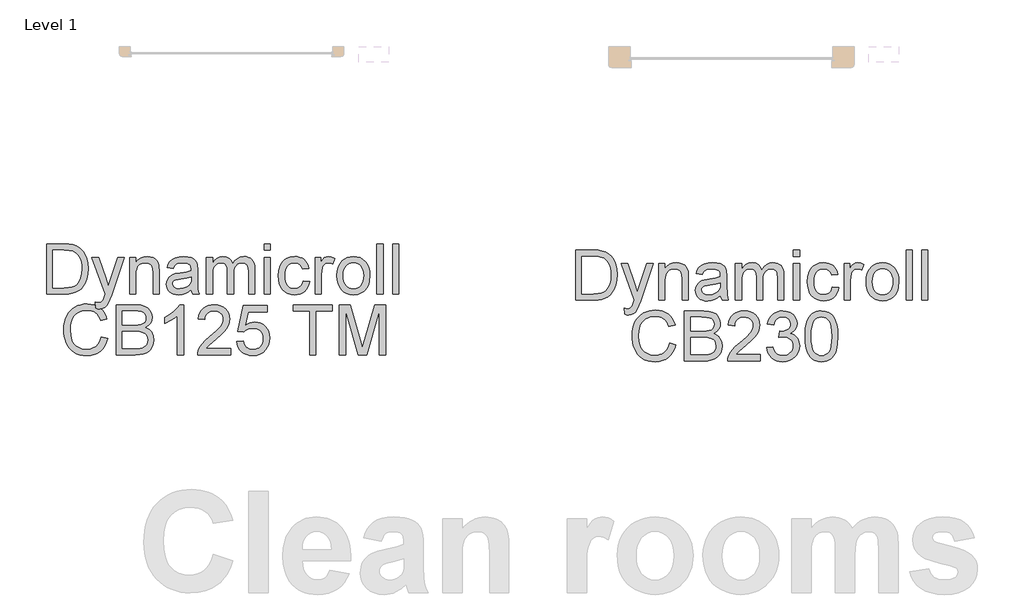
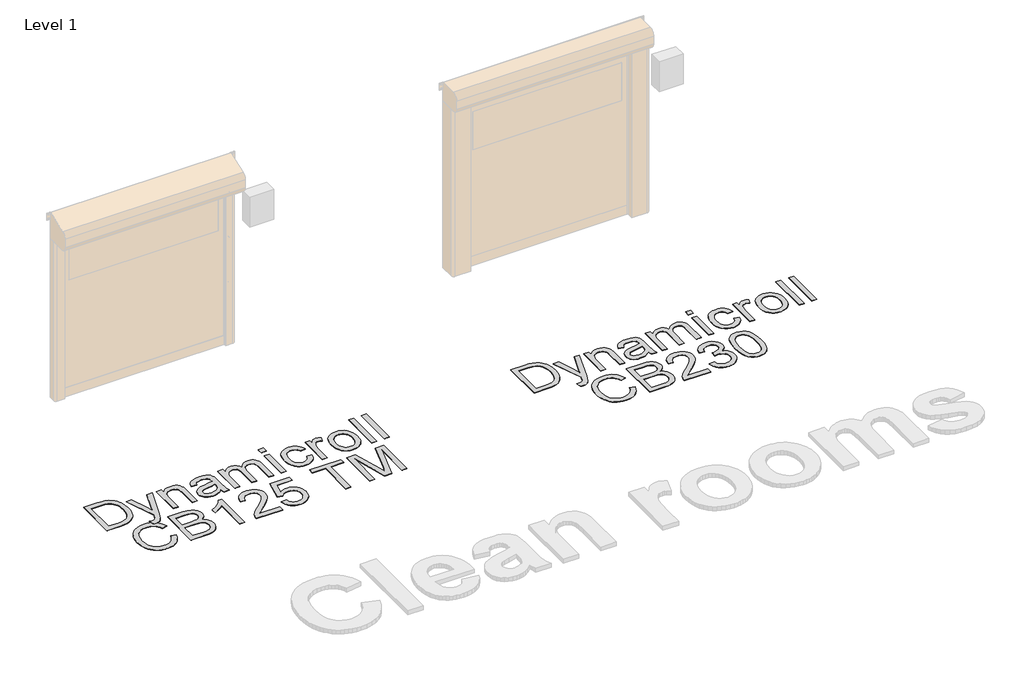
# One storey, part 16 of 20: 2 proxies.
"""IFC4 building model written with IfcOpenShell, lengths in millimetres."""

from ifc_helpers import new_model, si_unit, origin, origin_with_axes, place, context, project, spatial, polyline, outline, extrude, element, save

model = new_model("IFC4")

# Units and contexts
model_context = context("Model", 3, world=origin())
ifc_project = project(units=[si_unit("LENGTHUNIT", "METRE", prefix="MILLI")], contexts=[model_context])

# Site, building, storey
site = spatial("IfcSite", under=ifc_project)
building = spatial("IfcBuilding", under=site)
storey = spatial("IfcBuildingStorey", under=building, Name="Level 1", Elevation=0.0)

# Proxies
placement = place(None, origin())
element("IfcBuildingElementProxy", 1, Name="500mm", ObjectType="500mm", at=placement, inside=storey, context=model_context, shape_type="SweptSolid", body=[
    extrude(outline(polyline([(-367.2785937, 53537.1526628), (-367.2785937, 54039.4342136), (-194.006174, 54039.4342136), (-142.2267831, 54037.6254604), (-104.3655945, 54032.199201), (-64.3277707, 54018.250342), (-30.5439408, 53996.2693928), (-11.927579, 53978.3044887), (4.1902509, 53958.0096653), (17.809549, 53935.3849226), (28.9303151, 53910.4302606), (43.7375654, 53854.4508837), (48.6733155, 53790.9912395), (45.3317207, 53737.0811988), (35.3069364, 53689.6397498), (20.0398336, 53649.2493724), (0.9712835, 53616.4925464), (-20.9790089, 53590.6335079), (-44.8913386, 53570.9364927), (-72.3445325, 53556.3285118), (-104.9174175, 53545.736576), (-142.6713072, 53539.2986411), (-185.6675154, 53537.1526628), (-367.2785937, 53537.1526628)]), holes=[polyline([(-304.4933998, 53599.9378567), (-193.3930373, 53599.9378567), (-147.4384447, 53602.2064623), (-112.5816257, 53609.0122792), (-86.278063, 53619.9567686), (-65.9832396, 53634.6413915), (-44.170903, 53661.8186739), (-27.7848258, 53696.9973897), (-17.5301152, 53740.3308231), (-14.1118783, 53791.9722581), (-15.7865078, 53828.4232325), (-20.8103963, 53860.3983092), (-29.1835438, 53887.8974884), (-40.9059503, 53910.9207699), (-55.027254, 53929.98932), (-70.597093, 53945.6243048), (-87.6154674, 53957.8257243), (-106.0823771, 53966.5935785), (-142.1961263, 53974.1351594), (-195.1098199, 53976.6490197), (-304.4933998, 53976.6490197), (-304.4933998, 53599.9378567)])]), origin_with_axes(), (0.0, 0.0, 1.0), 5.0),
    extrude(outline(polyline([(127.1548078, 53395.8859767), (119.3066586, 53456.3412512), (151.1897649, 53450.8230213), (167.9590525, 53452.5551323), (180.9882065, 53457.7514655), (191.1356182, 53466.0441388), (199.2596789, 53477.0652703), (216.4275053, 53523.2957743), (221.3325986, 53538.5015635), (87.9140617, 53906.0156766), (154.1328208, 53906.0156766), (224.8887912, 53701.2280327), (249.5368849, 53619.3129751), (274.1849786, 53691.6631008), (346.9029863, 53906.0156766), (412.6312361, 53906.0156766), (284.2404198, 53528.3234949), (250.8857855, 53446.4084373), (233.8099296, 53420.2581588), (214.465468, 53402.1399706), (191.9940095, 53391.5633632), (165.5371627, 53388.0378274), (147.3576607, 53389.9998647), (127.1548078, 53395.8859767)])), origin_with_axes(), (0.0, 0.0, 1.0), 5.0),
    extrude(outline(polyline([(464.6252247, 53537.1526628), (464.6252247, 53906.0156766), (527.4104186, 53906.0156766), (527.4104186, 53854.5121973), (549.2227552, 53880.4785348), (575.419019, 53899.0259187), (605.9992098, 53910.1543491), (640.9633278, 53913.8638259), (671.9114006, 53910.8747847), (700.2536427, 53901.907661), (723.8900608, 53888.0814294), (740.7206621, 53870.5150641), (752.1403324, 53849.2545505), (759.5439575, 53824.3458737), (762.8548955, 53763.6453445), (762.8548955, 53537.1526628), (700.0697017, 53537.1526628), (700.0697017, 53755.1840586), (698.2609485, 53787.6496447), (692.8346891, 53810.7342399), (682.8252331, 53827.2736013), (667.2668904, 53840.1034858), (647.3246206, 53848.3348455), (624.1633833, 53851.078632), (605.0986653, 53849.5381262), (587.3905122, 53844.9166086), (571.038924, 53837.2140793), (556.0439005, 53826.4305384), (543.5167522, 53811.3397123), (534.5687891, 53790.715328), (529.2000112, 53764.5573853), (527.4104186, 53732.8658842), (527.4104186, 53537.1526628), (464.6252247, 53537.1526628)])), origin_with_axes(), (0.0, 0.0, 1.0), 5.0),
    extrude(outline(polyline([(1084.6290139, 53584.2415582), (1054.6313029, 53558.5204754), (1023.7445437, 53541.6898741), (991.2636293, 53532.4008537), (956.4834523, 53529.3045136), (928.5282528, 53531.1669162), (904.0142827, 53536.754124), (882.9415422, 53546.066137), (865.3100312, 53559.1029552), (851.3879969, 53575.0368441), (841.4436867, 53593.0400692), (835.4771006, 53613.1126306), (833.4882386, 53635.2545282), (836.4926082, 53661.2821794), (845.5057171, 53684.9185975), (859.4085908, 53705.1521073), (877.082255, 53720.9710331), (897.8522593, 53732.9271979), (921.0441534, 53741.5724248), (975.3680614, 53751.0147293), (1039.5634695, 53760.9475432), (1084.261132, 53772.5971397), (1084.6290139, 53786.5766555), (1080.3064005, 53814.5970008), (1067.3385602, 53832.9297869), (1054.2634209, 53840.8699067), (1038.3371962, 53846.5414208), (997.9314904, 53851.078632), (960.5301542, 53848.058934), (934.4105326, 53838.9998399), (916.5989127, 53822.2458807), (904.1215816, 53796.1415874), (841.3363878, 53803.9897366), (852.2348919, 53838.3253895), (868.4983418, 53865.3034025), (891.6442506, 53885.9354511), (923.1901317, 53901.2332107), (961.771756, 53910.7061721), (1006.0248943, 53913.8638259), (1048.4692795, 53911.0740541), (1082.1151536, 53902.7047387), (1107.4836829, 53890.1201088), (1125.0960334, 53874.6843934), (1136.7762868, 53855.6005149), (1144.3485245, 53832.0713956), (1147.4142078, 53777.134351), (1147.4142078, 53699.0207407), (1150.6025184, 53589.9437291), (1155.3236707, 53562.9810446), (1163.1105063, 53537.1526628), (1100.3253124, 53537.1526628), (1090.2698712, 53558.9803279), (1084.6290139, 53584.2415582)]), holes=[polyline([(1084.6290139, 53709.8119459), (1042.4452118, 53699.3579659), (983.3388379, 53690.5594548), (929.3214983, 53680.3813863), (915.2653404, 53673.4222852), (904.8573456, 53663.8266965), (898.4194107, 53652.3303841), (896.2734324, 53639.6691121), (900.9485994, 53620.9991009), (914.9741005, 53605.7013412), (938.0433673, 53595.4926159), (969.8498315, 53592.0897074), (1003.5723477, 53595.8451695), (1033.3707893, 53607.1115556), (1057.5283736, 53623.7122306), (1074.3283181, 53643.4705594), (1081.7779285, 53663.8266965), (1084.261132, 53692.0309828), (1084.6290139, 53709.8119459)])]), origin_with_axes(), (0.0, 0.0, 1.0), 5.0),
    extrude(outline(polyline([(1233.7438493, 53537.1526628), (1233.7438493, 53906.0156766), (1296.5290432, 53906.0156766), (1296.5290432, 53845.3151474), (1315.4136523, 53873.197537), (1339.6938639, 53895.0405305), (1368.5419437, 53909.158002), (1401.1301571, 53913.8638259), (1436.0482898, 53909.0660315), (1464.0379783, 53894.6726485), (1484.9459384, 53871.6340385), (1498.6188859, 53840.9005635), (1521.5042116, 53872.8219908), (1547.6085049, 53895.6230103), (1576.9317656, 53909.303622), (1609.4739937, 53913.8638259), (1634.6087646, 53911.9669343), (1656.670188, 53906.2762597), (1675.6582639, 53896.791802), (1691.5729923, 53883.5135613), (1704.1537901, 53866.2882533), (1713.1400743, 53844.9625939), (1718.5318448, 53819.536583), (1720.3291016, 53790.0102208), (1720.3291016, 53537.1526628), (1657.5439078, 53537.1526628), (1657.5439078, 53763.0322079), (1656.0877082, 53794.3481627), (1651.7191095, 53815.4553922), (1643.5337351, 53829.9100889), (1630.6272085, 53841.2684455), (1614.0265334, 53848.6260854), (1594.7587139, 53851.078632), (1576.9662545, 53849.5074693), (1560.7449578, 53844.7939813), (1546.0948238, 53836.9381678), (1533.0158524, 53825.940029), (1522.2591361, 53811.4776681), (1514.5757674, 53793.2291883), (1509.9657461, 53771.1945896), (1508.4290724, 53745.3738721), (1508.4290724, 53537.1526628), (1445.6438785, 53537.1526628), (1445.6438785, 53770.0219658), (1442.0110438, 53805.5225783), (1431.1125397, 53830.8451223), (1422.6857428, 53839.6972828), (1411.9366907, 53846.0202546), (1383.4718214, 53851.078632), (1359.2835802, 53847.7063804), (1336.9960626, 53837.5896255), (1318.6019629, 53820.9736221), (1306.093975, 53798.1036247), (1298.9202761, 53766.3738026), (1296.5290432, 53723.178325), (1296.5290432, 53537.1526628), (1233.7438493, 53537.1526628)])), origin_with_axes(), (0.0, 0.0, 1.0), 5.0),
    extrude(outline(polyline([(1814.5068924, 53976.6490197), (1814.5068924, 54039.4342136), (1877.2920862, 54039.4342136), (1877.2920862, 53976.6490197), (1814.5068924, 53976.6490197)])), origin_with_axes(), (0.0, 0.0, 1.0), 5.0),
    extrude(outline(polyline([(1814.5068924, 53537.1526628), (1814.5068924, 53906.0156766), (1877.2920862, 53906.0156766), (1877.2920862, 53537.1526628), (1814.5068924, 53537.1526628)])), origin_with_axes(), (0.0, 0.0, 1.0), 5.0),
    extrude(outline(polyline([(2206.9143539, 53670.5711997), (2269.6995477, 53662.7230505), (2262.8707382, 53633.0970536), (2252.1944961, 53606.8816293), (2237.6708215, 53584.0767777), (2219.2997144, 53564.6824988), (2197.8552598, 53549.2046303), (2174.1115427, 53538.1490099), (2148.0685631, 53531.5156377), (2119.726321, 53529.3045136), (2084.5131163, 53532.3893574), (2052.9404105, 53541.6438888), (2025.0082036, 53557.0681079), (2000.7164956, 53578.6620146), (1981.0539694, 53606.0194059), (1967.0093078, 53638.7340787), (1958.5825108, 53676.8060331), (1955.7735785, 53720.2352691), (1960.5713729, 53776.1073471), (1974.9647559, 53824.5298147), (1985.8172748, 53845.4799279), (1999.183654, 53863.6326051), (2015.0638934, 53878.9878463), (2033.4579932, 53891.5456515), (2074.4615072, 53908.2842823), (2118.8679297, 53913.8638259), (2146.7234945, 53911.9477738), (2171.9195791, 53906.1996176), (2194.4561834, 53896.6193574), (2214.3333075, 53883.2069929), (2231.2137261, 53866.2690927), (2244.7602142, 53846.1122251), (2254.9727716, 53822.73639), (2261.8513985, 53796.1415874), (2199.0662047, 53788.2934382), (2187.6771912, 53815.6853184), (2169.9422134, 53835.3210199), (2146.8422898, 53847.139229), (2119.358439, 53851.078632), (2098.0251154, 53849.1395873), (2078.7841207, 53843.3224533), (2061.6354547, 53833.6272299), (2046.5791177, 53820.0539171), (2034.3202166, 53802.2882824), (2025.5638587, 53780.0160933), (2020.310044, 53753.2373497), (2018.5587724, 53721.9520517), (2020.2717229, 53690.1954049), (2025.4105745, 53663.1062609), (2033.9753272, 53640.6846197), (2045.965981, 53622.9304814), (2060.723414, 53609.4376428), (2077.5885042, 53599.7999009), (2096.5612517, 53594.0172558), (2117.6416564, 53592.0897074), (2150.1532277, 53596.9028302), (2176.809344, 53611.3421985), (2187.5890528, 53622.2636952), (2196.1997908, 53635.7756944), (2206.9143539, 53670.5711997)])), origin_with_axes(), (0.0, 0.0, 1.0), 5.0),
    extrude(outline(polyline([(2324.6365924, 53537.1526628), (2324.6365924, 53906.0156766), (2379.573637, 53906.0156766), (2379.573637, 53851.446514), (2399.8684604, 53883.0843656), (2418.5691285, 53901.72372), (2437.3311102, 53910.8287994), (2457.8098746, 53913.8638259), (2489.0798442, 53909.0200463), (2520.8403231, 53894.4887075), (2499.8710494, 53838.2027622), (2477.7981297, 53847.8596646), (2455.72521, 53851.078632), (2436.9785566, 53847.9822919), (2420.2245974, 53838.6932715), (2406.6896057, 53823.9166781), (2397.5998547, 53804.3576186), (2389.9663033, 53769.2862018), (2387.4217862, 53731.0264743), (2387.4217862, 53537.1526628), (2324.6365924, 53537.1526628)])), origin_with_axes(), (0.0, 0.0, 1.0), 5.0),
    extrude(outline(polyline([(2544.3847708, 53721.5841697), (2547.7800151, 53769.3551796), (2557.9657478, 53810.5196421), (2574.941969, 53845.077557), (2598.7086788, 53873.0289244), (2622.6363369, 53890.8941938), (2649.0471984, 53903.6551005), (2677.9412635, 53911.3116445), (2709.318532, 53913.8638259), (2743.9569211, 53910.7559894), (2775.276708, 53901.4324801), (2803.2778928, 53885.8932979), (2827.9604754, 53864.1384429), (2848.1058468, 53836.9036789), (2862.4953977, 53804.9247701), (2871.1291283, 53768.2017163), (2874.0070385, 53726.7345177), (2868.9180042, 53663.3055303), (2862.5567114, 53637.270215), (2853.6509014, 53615.0210185), (2842.3117053, 53595.8030163), (2828.6502542, 53578.861284), (2812.6665479, 53564.1958216), (2794.3605865, 53551.806629), (2753.632984, 53534.9300424), (2709.318532, 53529.3045136), (2674.1743051, 53532.4008537), (2642.5632783, 53541.6898741), (2614.4854514, 53557.1715747), (2589.9408245, 53578.8459556), (2570.010051, 53606.3451347), (2555.7737842, 53639.3012301), (2547.2320242, 53677.7142418), (2544.3847708, 53721.5841697)]), holes=[polyline([(2607.1699647, 53721.7067971), (2608.986382, 53691.2530656), (2614.4356341, 53664.8843572), (2623.5177208, 53642.6006718), (2636.2326423, 53624.4020093), (2651.6990145, 53610.2653773), (2669.0354535, 53600.1677829), (2688.2419593, 53594.1092263), (2709.318532, 53592.0897074), (2730.2878057, 53594.1207226), (2749.4176695, 53600.2137682), (2766.7081232, 53610.3688441), (2782.159167, 53624.5859503), (2794.8740885, 53642.9647217), (2803.9561752, 53665.6047928), (2809.4054273, 53692.5061637), (2811.2218446, 53723.6688344), (2809.393931, 53753.1568755), (2803.91019, 53778.8358052), (2794.7706217, 53800.7056234), (2781.975226, 53818.7663301), (2766.4667007, 53832.9029622), (2749.1877432, 53843.0005566), (2730.1383536, 53849.0591132), (2709.318532, 53851.078632), (2688.2419593, 53849.0667774), (2669.0354535, 53843.0312134), (2651.6990145, 53832.9719401), (2636.2326423, 53818.8889575), (2623.5177208, 53800.7439445), (2614.4356341, 53778.4985801), (2608.986382, 53752.1528643), (2607.1699647, 53721.7067971)])]), origin_with_axes(), (0.0, 0.0, 1.0), 5.0),
    extrude(outline(polyline([(2944.6403816, 53537.1526628), (2944.6403816, 54039.4342136), (3007.4255754, 54039.4342136), (3007.4255754, 53537.1526628), (2944.6403816, 53537.1526628)])), origin_with_axes(), (0.0, 0.0, 1.0), 5.0),
    extrude(outline(polyline([(3101.6033662, 53537.1526628), (3101.6033662, 54039.4342136), (3164.38856, 54039.4342136), (3164.38856, 53537.1526628), (3101.6033662, 53537.1526628)])), origin_with_axes(), (0.0, 0.0, 1.0), 5.0),
    extrude(outline(polyline([(182.0918524, 53105.8239686), (244.8770463, 53089.6371608), (232.4533647, 53050.591852), (215.9063392, 53016.474629), (195.2359696, 52987.2854919), (170.4422559, 52963.0244408), (142.0846855, 52943.9520586), (110.7227454, 52930.3289285), (76.3564357, 52922.1550504), (38.9857563, 52919.4304244), (0.6992041, 52921.4920964), (-33.8395503, 52927.6771124), (-64.6305069, 52937.9854725), (-91.6736656, 52952.4171766), (-115.3407407, 52970.7576269), (-136.003446, 52992.7922256), (-153.6617818, 53018.5209726), (-168.315748, 53047.943868), (-179.8235566, 53079.7886532), (-188.0434199, 53112.7830697), (-192.9753379, 53146.9271173), (-194.6193106, 53182.2207962), (-192.7607401, 53220.0896491), (-187.1850286, 53255.4599701), (-177.8921761, 53288.3317592), (-164.8821827, 53318.7050165), (-148.4462881, 53346.0777362), (-128.8757324, 53369.9479127), (-106.1705155, 53390.3155461), (-80.3306374, 53407.1806363), (-52.2336501, 53420.4052276), (-22.7571052, 53429.8513642), (8.0989971, 53435.5190462), (40.334657, 53437.4082736), (76.2453046, 53434.9633911), (109.1745753, 53427.6287439), (139.122469, 53415.4043317), (166.0889857, 53398.2901547), (189.6296012, 53376.7384012), (209.2997917, 53351.2012594), (225.0995569, 53321.6787293), (237.0288971, 53288.1708109), (174.2437032, 53273.2102764), (164.3568746, 53297.9005232), (152.4773518, 53318.9962564), (138.6051349, 53336.4974759), (122.7402239, 53350.4041817), (104.7906482, 53360.9999496), (84.6644374, 53368.5683552), (62.3615914, 53373.1093986), (37.8821103, 53374.6230797), (9.7161451, 53372.9446181), (-16.0432588, 53367.9092333), (-39.3961013, 53359.5169253), (-60.3423824, 53347.7676941), (-78.6176869, 53333.19037), (-93.9575997, 53316.3137835), (-106.3621207, 53297.1379345), (-115.83125, 53275.662823), (-127.8334001, 53229.7082305), (-131.8341168, 53182.3434236), (-127.0976361, 53124.3406957), (-112.888194, 53074.186117), (-102.0969888, 53052.5308966), (-88.669296, 53033.7957396), (-72.6051155, 53017.9806459), (-53.9044475, 53005.0856156), (-12.2264831, 52987.9331175), (32.7317624, 52982.2156182), (60.02784, 52984.1623271), (85.1396183, 52990.0024538), (108.0670972, 52999.7359982), (128.8102768, 53013.3629605), (146.8786477, 53030.8220268), (161.7817006, 53052.0518836), (173.5194355, 53077.0525309), (182.0918524, 53105.8239686)])), origin_with_axes(), (0.0, 0.0, 1.0), 5.0),
    extrude(outline(polyline([(331.2066878, 52927.2785736), (331.2066878, 53429.5601243), (522.8732073, 53429.5601243), (575.5876315, 53425.865976), (616.7444298, 53414.7835309), (648.2903108, 53396.0368775), (672.1719837, 53369.3501045), (687.2091602, 53337.9575075), (692.2215524, 53305.0933826), (688.0062379, 53274.8504169), (675.3602943, 53246.4162044), (654.1917512, 53221.5381845), (624.408638, 53201.9637967), (643.3583928, 53193.8857212), (659.9858926, 53183.3857559), (674.2911373, 53170.4639008), (686.2741268, 53155.1201559), (702.5069199, 53119.0370636), (707.9178509, 53077.0065456), (704.2237025, 53041.981114), (693.1412574, 53009.5001995), (676.601896, 52981.878393), (656.5369989, 52961.4302855), (631.9655473, 52946.6230352), (601.9065226, 52935.9238005), (565.3789062, 52929.4398803), (521.4016793, 52927.2785736), (331.2066878, 52927.2785736)]), holes=[polyline([(393.9918817, 53225.5082443), (508.6484368, 53225.5082443), (548.7475743, 53226.857145), (575.60296, 53230.9038469), (599.0401087, 53240.2081957), (615.8860384, 53254.1417263), (626.0487785, 53272.4898408), (629.4363586, 53295.0379414), (626.2787048, 53316.9269201), (616.8057434, 53335.9954702), (601.4466701, 53350.8793626), (580.6306806, 53360.2143682), (548.6862606, 53365.1347899), (499.9418963, 53366.7749305), (393.9918817, 53366.7749305), (393.9918817, 53225.5082443)]), polyline([(393.9918817, 52990.0637674), (522.75058, 52990.0637674), (569.348966, 52992.5163141), (590.9773617, 52997.9579019), (608.7736532, 53006.1892616), (623.2436783, 53017.9768138), (634.8932748, 53034.0869795), (642.5728115, 53053.7993231), (645.132657, 53076.393409), (642.1282874, 53102.635658), (633.1151785, 53125.199087), (617.3728948, 53142.8420943), (594.1810007, 53154.3230783), (561.3322042, 53160.6230574), (516.6192134, 53162.7230505), (393.9918817, 53162.7230505), (393.9918817, 52990.0637674)])]), origin_with_axes(), (0.0, 0.0, 1.0), 5.0),
    extrude(outline(polyline([(1006.1475216, 52927.2785736), (943.3623278, 52927.2785736), (943.3623278, 53318.7050165), (917.1507356, 53297.5058165), (883.8880719, 53276.3372733), (817.7919401, 53244.6381081), (817.7919401, 53303.9897366), (867.1034559, 53330.8144655), (909.8237526, 53362.7282285), (943.5002835, 53396.6653426), (965.6805022, 53429.5601243), (1006.1475216, 53429.5601243), (1006.1475216, 52927.2785736)])), origin_with_axes(), (0.0, 0.0, 1.0), 5.0),
    extrude(outline(polyline([(1477.0364755, 52990.0637674), (1477.0364755, 52927.2785736), (1147.4142078, 52927.2785736), (1148.7937653, 52949.3821501), (1154.158711, 52970.5660217), (1169.6404117, 53004.3958368), (1192.2958112, 53037.2139765), (1225.0679656, 53071.5649578), (1270.8999308, 53109.9932979), (1338.6515316, 53170.1726609), (1379.3024921, 53214.5944118), (1399.6279723, 53250.6468473), (1404.7093424, 53268.3051831), (1406.4031324, 53285.7182642), (1404.805145, 53302.1005093), (1400.0111827, 53317.1568464), (1392.0212456, 53330.8872754), (1380.8353337, 53343.2917965), (1367.0742479, 53353.5656676), (1351.3587889, 53360.904147), (1333.6889568, 53365.3072346), (1314.0647516, 53366.7749305), (1274.9006475, 53361.0421027), (1258.5950445, 53353.876068), (1244.4737409, 53343.8436195), (1233.0502385, 53331.2819822), (1224.8380394, 53316.5283813), (1219.8371435, 53299.5828169), (1218.0475509, 53280.445289), (1155.262357, 53288.2934382), (1160.6617917, 53320.7053748), (1170.4834746, 53349.0246242), (1184.7274056, 53373.2511864), (1203.3935847, 53393.3850615), (1226.0528164, 53409.2116515), (1252.2759048, 53420.5163586), (1282.0628501, 53427.2991829), (1315.4136523, 53429.5601243), (1349.0633585, 53427.046264), (1379.0112522, 53419.5046831), (1405.2573333, 53406.9353816), (1427.8016018, 53389.3383595), (1445.9082937, 53368.0165322), (1458.8416451, 53344.2728151), (1466.601656, 53318.1072082), (1469.1883262, 53289.5197115), (1466.3985544, 53259.4913436), (1458.0292391, 53229.984142), (1443.1760035, 53199.9711025), (1420.9344712, 53168.4252214), (1385.4798439, 53130.7633022), (1330.9873234, 53082.4021482), (1258.759825, 53022.0081873), (1230.4329114, 52990.0637674), (1477.0364755, 52990.0637674)])), origin_with_axes(), (0.0, 0.0, 1.0), 5.0),
    extrude(outline(polyline([(1539.8216693, 53060.6971105), (1602.6068632, 53068.5452597), (1614.1338323, 53030.8526836), (1623.1162844, 53016.0186086), (1634.2447147, 53003.8593423), (1647.4961308, 52994.390213), (1662.8475399, 52987.6265492), (1699.8503372, 52982.2156182), (1723.7626669, 52984.0971813), (1744.854568, 52989.7418707), (1763.1260404, 52999.1496863), (1778.5770842, 53012.3206281), (1790.86281, 53028.6032385), (1799.6383284, 53047.3460598), (1804.9036395, 53068.5490918), (1806.6587431, 53092.2123348), (1805.0147705, 53114.5764944), (1800.0828525, 53134.4574505), (1791.8629892, 53151.8552032), (1780.3551805, 53166.7697524), (1765.5211055, 53178.7335815), (1747.322443, 53187.2791737), (1725.7591931, 53192.406529), (1700.8313559, 53194.1156474), (1670.3737924, 53191.3871893), (1645.7103703, 53183.2018149), (1626.0133551, 53170.6631702), (1610.4550124, 53154.8749013), (1547.6698185, 53162.7230505), (1602.6068632, 53421.7119751), (1845.8994893, 53421.7119751), (1845.8994893, 53358.9267813), (1653.3745785, 53358.9267813), (1626.5191928, 53220.6031511), (1648.6764188, 53236.4833905), (1671.3701394, 53247.8264187), (1694.6003546, 53254.6322356), (1718.3670643, 53256.9008413), (1748.9434231, 53254.0880768), (1777.0289141, 53245.6497836), (1802.6235375, 53231.5859615), (1825.7272932, 53211.8966105), (1844.8533249, 53187.7850114), (1858.5147761, 53160.4544449), (1866.7116468, 53129.9049108), (1869.443937, 53096.1364094), (1866.9837262, 53063.6095096), (1859.6030936, 53033.3512155), (1847.3020394, 53005.3615271), (1830.0805635, 52979.6404442), (1803.9915987, 52953.2985605), (1773.5493636, 52934.4829293), (1738.7538582, 52923.1935506), (1699.6050826, 52919.4304244), (1667.2046422, 52921.8484821), (1637.9388631, 52929.1026551), (1611.8077451, 52941.1929436), (1588.8112883, 52958.1193475), (1569.6775925, 52979.0388039), (1555.1347574, 53003.1082498), (1545.182783, 53030.3276854), (1539.8216693, 53060.6971105)])), origin_with_axes(), (0.0, 0.0, 1.0), 5.0),
    extrude(outline(polyline([(2269.6995477, 52927.2785736), (2269.6995477, 53366.7749305), (2104.8884139, 53366.7749305), (2104.8884139, 53429.5601243), (2497.2958754, 53429.5601243), (2497.2958754, 53366.7749305), (2332.4847416, 53366.7749305), (2332.4847416, 52927.2785736), (2269.6995477, 52927.2785736)])), origin_with_axes(), (0.0, 0.0, 1.0), 5.0),
    extrude(outline(polyline([(2567.9292185, 52927.2785736), (2567.9292185, 53429.5601243), (2675.9638978, 53429.5601243), (2778.7256017, 53075.5350176), (2799.4496208, 53001.5907366), (2821.8904225, 53081.6663842), (2922.9353438, 53429.5601243), (3030.9700231, 53429.5601243), (3030.9700231, 52927.2785736), (2968.1848293, 52927.2785736), (2968.1848293, 53366.7749305), (2842.0013049, 52927.2785736), (2756.8979367, 52927.2785736), (2630.7144123, 53366.7749305), (2630.7144123, 52927.2785736), (2567.9292185, 52927.2785736)])), origin_with_axes(), (0.0, 0.0, 1.0), 5.0),
])
element("IfcBuildingElementProxy", 2, Name="500mm", ObjectType="500mm", at=placement, inside=storey, context=model_context, shape_type="SweptSolid", body=[
    extrude(outline(polyline([(4936.8681152, 53476.3287441), (4936.8681152, 53978.6102948), (5110.1405349, 53978.6102948), (5161.9199257, 53976.8015417), (5199.7811144, 53971.3752822), (5239.8189382, 53957.4264233), (5273.6027681, 53935.445474), (5292.2191299, 53917.48057), (5308.3369598, 53897.1857465), (5321.9562578, 53874.5610038), (5333.077024, 53849.6063418), (5347.8842743, 53793.6269649), (5352.8200244, 53730.1673207), (5349.4784296, 53676.25728), (5339.4536452, 53628.8158311), (5324.1865424, 53588.4254537), (5305.1179924, 53555.6686277), (5283.1677, 53529.8095891), (5259.2553703, 53510.112574), (5231.8021764, 53495.5045931), (5199.2292914, 53484.9126573), (5161.4754017, 53478.4747224), (5118.4791935, 53476.3287441), (4936.8681152, 53476.3287441)]), holes=[polyline([(4999.653309, 53539.1139379), (5110.7536716, 53539.1139379), (5156.7082641, 53541.3825435), (5191.5650832, 53548.1883605), (5217.8686458, 53559.1328498), (5238.1634692, 53573.8174728), (5259.9758059, 53600.9947552), (5276.3618831, 53636.173471), (5286.6165937, 53679.5069043), (5290.0348306, 53731.1483394), (5288.3602011, 53767.5993137), (5283.3363126, 53799.5743905), (5274.9631651, 53827.0735696), (5263.2407586, 53850.0968512), (5249.1194549, 53869.1654013), (5233.5496159, 53884.800386), (5216.5312415, 53897.0018056), (5198.0643318, 53905.7696598), (5161.9505826, 53913.3112407), (5109.0368889, 53915.825101), (4999.653309, 53915.825101), (4999.653309, 53539.1139379)])]), origin_with_axes(), (0.0, 0.0, 1.0), 5.0),
    extrude(outline(polyline([(5431.3015167, 53335.0620579), (5423.4533675, 53395.5173325), (5455.3364737, 53389.9991025), (5472.1057613, 53391.7312136), (5485.1349153, 53396.9275468), (5495.282327, 53405.2202201), (5503.4063878, 53416.2413515), (5520.5742142, 53462.4718556), (5525.4793075, 53477.6776447), (5392.0607706, 53845.1917579), (5458.2795297, 53845.1917579), (5529.0355001, 53640.4041139), (5553.6835938, 53558.4890563), (5578.3316874, 53630.839182), (5651.0496952, 53845.1917579), (5716.777945, 53845.1917579), (5588.3871286, 53467.4995762), (5555.0324944, 53385.5845186), (5537.9566385, 53359.4342401), (5518.6121769, 53341.3160518), (5496.1407184, 53330.7394445), (5469.6838715, 53327.2139087), (5451.5043696, 53329.175946), (5431.3015167, 53335.0620579)])), origin_with_axes(), (0.0, 0.0, 1.0), 5.0),
    extrude(outline(polyline([(5768.7719336, 53476.3287441), (5768.7719336, 53845.1917579), (5831.5571275, 53845.1917579), (5831.5571275, 53793.6882786), (5853.3694641, 53819.6546161), (5879.5657278, 53838.202), (5910.1459187, 53849.3304303), (5945.1100366, 53853.0399071), (5976.0581095, 53850.0508659), (6004.4003515, 53841.0837423), (6028.0367697, 53827.2575106), (6044.867371, 53809.6911454), (6056.2870413, 53788.4306317), (6063.6906664, 53763.521955), (6067.0016044, 53702.8214258), (6067.0016044, 53476.3287441), (6004.2164105, 53476.3287441), (6004.2164105, 53694.3601399), (6002.4076574, 53726.8257259), (5996.981398, 53749.9103211), (5986.971942, 53766.4496825), (5971.4135993, 53779.2795671), (5951.4713295, 53787.5109267), (5928.3100922, 53790.2547133), (5909.2453742, 53788.7142074), (5891.5372211, 53784.0926899), (5875.1856328, 53776.3901606), (5860.1906094, 53765.6066196), (5847.6634611, 53750.5157936), (5838.7154979, 53729.8914092), (5833.3467201, 53703.7334665), (5831.5571275, 53672.0419655), (5831.5571275, 53476.3287441), (5768.7719336, 53476.3287441)])), origin_with_axes(), (0.0, 0.0, 1.0), 5.0),
    extrude(outline(polyline([(6388.7757228, 53523.4176394), (6358.7780118, 53497.6965566), (6327.8912526, 53480.8659553), (6295.4103381, 53471.576935), (6260.6301612, 53468.4805948), (6232.6749616, 53470.3429974), (6208.1609916, 53475.9302052), (6187.0882511, 53485.2422182), (6169.45674, 53498.2790364), (6155.5347058, 53514.2129254), (6145.5903956, 53532.2161505), (6139.6238095, 53552.2887119), (6137.6349474, 53574.4306094), (6140.6393171, 53600.4582606), (6149.652426, 53624.0946788), (6163.5552997, 53644.3281885), (6181.2289639, 53660.1471143), (6201.9989682, 53672.1032792), (6225.1908623, 53680.7485061), (6279.5147703, 53690.1908106), (6343.7101784, 53700.1236245), (6388.4078408, 53711.773221), (6388.7757228, 53725.7527368), (6384.4531094, 53753.7730821), (6371.485269, 53772.1058682), (6358.4101298, 53780.0459879), (6342.4839051, 53785.717502), (6302.0781993, 53790.2547133), (6264.6768631, 53787.2350152), (6238.5572415, 53778.1759211), (6220.7456215, 53761.4219619), (6208.2682905, 53735.3176687), (6145.4830967, 53743.1658179), (6156.3816008, 53777.5014708), (6172.6450507, 53804.4794838), (6195.7909595, 53825.1115323), (6227.3368406, 53840.409292), (6265.9184648, 53849.8822533), (6310.1716032, 53853.0399071), (6352.6159884, 53850.2501353), (6386.2618625, 53841.8808199), (6411.6303918, 53829.29619), (6429.2427423, 53813.8604746), (6440.9229956, 53794.7765961), (6448.4952334, 53771.2474769), (6451.5609167, 53716.3104323), (6451.5609167, 53638.1968219), (6454.7492273, 53529.1198104), (6459.4703796, 53502.1571258), (6467.2572151, 53476.3287441), (6404.4720213, 53476.3287441), (6394.4165801, 53498.1564091), (6388.7757228, 53523.4176394)]), holes=[polyline([(6388.7757228, 53648.9880271), (6346.5919207, 53638.5340471), (6287.4855468, 53629.7355361), (6233.4682072, 53619.5574675), (6219.4120493, 53612.5983664), (6209.0040545, 53603.0027777), (6202.5661196, 53591.5064654), (6200.4201413, 53578.8451934), (6205.0953083, 53560.1751821), (6219.1208094, 53544.8774225), (6242.1900762, 53534.6686971), (6273.9965403, 53531.2657887), (6307.7190566, 53535.0212507), (6337.5174982, 53546.2876368), (6361.6750825, 53562.8883118), (6378.475027, 53582.6466407), (6385.9246374, 53603.0027777), (6388.4078408, 53631.207064), (6388.7757228, 53648.9880271)])]), origin_with_axes(), (0.0, 0.0, 1.0), 5.0),
    extrude(outline(polyline([(6537.8905582, 53476.3287441), (6537.8905582, 53845.1917579), (6600.675752, 53845.1917579), (6600.675752, 53784.4912287), (6619.5603611, 53812.3736182), (6643.8405728, 53834.2166117), (6672.6886526, 53848.3340833), (6705.276866, 53853.0399071), (6740.1949987, 53848.2421128), (6768.1846872, 53833.8487297), (6789.0926472, 53810.8101198), (6802.7655947, 53780.0766448), (6825.6509205, 53811.998072), (6851.7552138, 53834.7990915), (6881.0784745, 53848.4797032), (6913.6207026, 53853.0399071), (6938.7554735, 53851.1430156), (6960.8168969, 53845.452341), (6979.8049728, 53835.9678833), (6995.7197012, 53822.6896425), (7008.300499, 53805.4643345), (7017.2867832, 53784.1386751), (7022.6785537, 53758.7126643), (7024.4758105, 53729.1863021), (7024.4758105, 53476.3287441), (6961.6906166, 53476.3287441), (6961.6906166, 53702.2082891), (6960.2344171, 53733.5242439), (6955.8658184, 53754.6314734), (6947.680444, 53769.0861701), (6934.7739173, 53780.4445267), (6918.1732423, 53787.8021667), (6898.9054228, 53790.2547133), (6881.1129634, 53788.6835506), (6864.8916667, 53783.9700625), (6850.2415326, 53776.1142491), (6837.1625613, 53765.1161103), (6826.405845, 53750.6537493), (6818.7224763, 53732.4052695), (6814.112455, 53710.3706709), (6812.5757813, 53684.5499533), (6812.5757813, 53476.3287441), (6749.7905874, 53476.3287441), (6749.7905874, 53709.198047), (6746.1577527, 53744.6986595), (6735.2592486, 53770.0212036), (6726.8324517, 53778.8733641), (6716.0833996, 53785.1963359), (6687.6185302, 53790.2547133), (6663.4302891, 53786.8824617), (6641.1427715, 53776.7657068), (6622.7486718, 53760.1497033), (6610.2406839, 53737.279706), (6603.066985, 53705.5498839), (6600.675752, 53662.3544063), (6600.675752, 53476.3287441), (6537.8905582, 53476.3287441)])), origin_with_axes(), (0.0, 0.0, 1.0), 5.0),
    extrude(outline(polyline([(7118.6536013, 53915.825101), (7118.6536013, 53978.6102948), (7181.4387951, 53978.6102948), (7181.4387951, 53915.825101), (7118.6536013, 53915.825101)])), origin_with_axes(), (0.0, 0.0, 1.0), 5.0),
    extrude(outline(polyline([(7118.6536013, 53476.3287441), (7118.6536013, 53845.1917579), (7181.4387951, 53845.1917579), (7181.4387951, 53476.3287441), (7118.6536013, 53476.3287441)])), origin_with_axes(), (0.0, 0.0, 1.0), 5.0),
    extrude(outline(polyline([(7511.0610628, 53609.747281), (7573.8462566, 53601.8991318), (7567.0174471, 53572.2731348), (7556.341205, 53546.0577106), (7541.8175304, 53523.252859), (7523.4464233, 53503.85858), (7502.0019686, 53488.3807115), (7478.2582515, 53477.3250911), (7452.215272, 53470.6917189), (7423.8730299, 53468.4805948), (7388.6598252, 53471.5654387), (7357.0871194, 53480.8199701), (7329.1549125, 53496.2441892), (7304.8632045, 53517.8380959), (7285.2006783, 53545.1954871), (7271.1560167, 53577.91016), (7262.7292197, 53615.9821144), (7259.9202874, 53659.4113503), (7264.7180818, 53715.2834284), (7279.1114648, 53763.705896), (7289.9639837, 53784.6560092), (7303.3303628, 53802.8086864), (7319.2106023, 53818.1639276), (7337.604702, 53830.7217328), (7378.6082161, 53847.4603635), (7423.0146386, 53853.0399071), (7450.8702034, 53851.1238551), (7476.066288, 53845.3756989), (7498.6028923, 53835.7954386), (7518.4800163, 53822.3830742), (7535.360435, 53805.445174), (7548.906923, 53785.2883063), (7559.1194805, 53761.9124712), (7565.9981074, 53735.3176687), (7503.2129135, 53727.4695194), (7491.8239001, 53754.8613997), (7474.0889223, 53774.4971012), (7450.9889986, 53786.3153103), (7423.5051479, 53790.2547133), (7402.1718243, 53788.3156686), (7382.9308295, 53782.4985346), (7365.7821636, 53772.8033111), (7350.7258265, 53759.2299984), (7338.4669255, 53741.4643637), (7329.7105676, 53719.1921745), (7324.4567528, 53692.413431), (7322.7054812, 53661.128133), (7324.4184318, 53629.3714862), (7329.5572834, 53602.2823422), (7338.1220361, 53579.860701), (7350.1126899, 53562.1065626), (7364.8701228, 53548.613724), (7381.7352131, 53538.9759822), (7400.7079605, 53533.1933371), (7421.7883653, 53531.2657887), (7454.2999366, 53536.0789115), (7480.9560528, 53550.5182798), (7491.7357617, 53561.4397765), (7500.3464997, 53574.9517756), (7511.0610628, 53609.747281)])), origin_with_axes(), (0.0, 0.0, 1.0), 5.0),
    extrude(outline(polyline([(7628.7833012, 53476.3287441), (7628.7833012, 53845.1917579), (7683.7203458, 53845.1917579), (7683.7203458, 53790.6225953), (7704.0151692, 53822.2604469), (7722.7158373, 53840.8998013), (7741.4778191, 53850.0048807), (7761.9565835, 53853.0399071), (7793.2265531, 53848.1961275), (7824.987032, 53833.6647887), (7804.0177583, 53777.3788435), (7781.9448386, 53787.0357458), (7759.8719188, 53790.2547133), (7741.1252655, 53787.1583732), (7724.3713063, 53777.8693528), (7710.8363146, 53763.0927593), (7701.7465636, 53743.5336999), (7694.1130122, 53708.462283), (7691.5684951, 53670.2025555), (7691.5684951, 53476.3287441), (7628.7833012, 53476.3287441)])), origin_with_axes(), (0.0, 0.0, 1.0), 5.0),
    extrude(outline(polyline([(7848.5314797, 53660.760251), (7851.9267239, 53708.5312609), (7862.1124567, 53749.6957233), (7879.0886779, 53784.2536382), (7902.8553876, 53812.2050057), (7926.7830457, 53830.0702751), (7953.1939073, 53842.8311818), (7982.0879723, 53850.4877258), (8013.4652409, 53853.0399071), (8048.10363, 53849.9320707), (8079.4234169, 53840.6085614), (8107.4246017, 53825.0693792), (8132.1071843, 53803.3145241), (8152.2525556, 53776.0797602), (8166.6421066, 53744.1008513), (8175.2758372, 53707.3777976), (8178.1537474, 53665.9105989), (8173.0647131, 53602.4816116), (8166.7034203, 53576.4462962), (8157.7976103, 53554.1970997), (8146.4584142, 53534.9790976), (8132.796963, 53518.0373653), (8116.8132568, 53503.3719028), (8098.5072954, 53490.9827102), (8057.7796929, 53474.1061237), (8013.4652409, 53468.4805948), (7978.321014, 53471.576935), (7946.7099871, 53480.8659553), (7918.6321603, 53496.347656), (7894.0875334, 53518.0220369), (7874.1567599, 53545.521216), (7859.9204931, 53578.4773114), (7851.378733, 53616.8903231), (7848.5314797, 53660.760251)]), holes=[polyline([(7911.3166735, 53660.8828783), (7913.1330909, 53630.4291469), (7918.5823429, 53604.0604385), (7927.6644297, 53581.776753), (7940.3793511, 53563.5780906), (7955.8457234, 53549.4414585), (7973.1821624, 53539.3438642), (7992.3886682, 53533.2853075), (8013.4652409, 53531.2657887), (8034.4345146, 53533.2968039), (8053.5643783, 53539.3898494), (8070.8548321, 53549.5449253), (8086.3058759, 53563.7620316), (8099.0207974, 53582.1408029), (8108.1028841, 53604.780874), (8113.5521362, 53631.6822449), (8115.3685535, 53662.8449156), (8113.5406399, 53692.3329568), (8108.0568989, 53718.0118865), (8098.9173305, 53739.8817047), (8086.1219349, 53757.9424114), (8070.6134095, 53772.0790435), (8053.3344521, 53782.1766378), (8034.2850625, 53788.2351944), (8013.4652409, 53790.2547133), (7992.3886682, 53788.2428586), (7973.1821624, 53782.2072946), (7955.8457234, 53772.1480213), (7940.3793511, 53758.0650387), (7927.6644297, 53739.9200257), (7918.5823429, 53717.6746613), (7913.1330909, 53691.3289455), (7911.3166735, 53660.8828783)])]), origin_with_axes(), (0.0, 0.0, 1.0), 5.0),
    extrude(outline(polyline([(8248.7870904, 53476.3287441), (8248.7870904, 53978.6102948), (8311.5722843, 53978.6102948), (8311.5722843, 53476.3287441), (8248.7870904, 53476.3287441)])), origin_with_axes(), (0.0, 0.0, 1.0), 5.0),
    extrude(outline(polyline([(8405.750075, 53476.3287441), (8405.750075, 53978.6102948), (8468.5352689, 53978.6102948), (8468.5352689, 53476.3287441), (8405.750075, 53476.3287441)])), origin_with_axes(), (0.0, 0.0, 1.0), 5.0),
    extrude(outline(polyline([(5878.6460228, 53045.0000498), (5941.4312167, 53028.813242), (5929.0075351, 52989.7679332), (5912.4605096, 52955.6507103), (5891.79014, 52926.4615732), (5866.9964263, 52902.200522), (5838.6388559, 52883.1281399), (5807.2769158, 52869.5050097), (5772.9106061, 52861.3311316), (5735.5399267, 52858.6065056), (5697.2533745, 52860.6681776), (5662.7146201, 52866.8531937), (5631.9236635, 52877.1615537), (5604.8805048, 52891.5932578), (5581.2134297, 52909.9337081), (5560.5507243, 52931.9683068), (5542.8923886, 52957.6970539), (5528.2384224, 52987.1199493), (5516.7306138, 53018.9647345), (5508.5107504, 53051.9591509), (5503.5788324, 53086.1031986), (5501.9348598, 53121.3968775), (5503.7934303, 53159.2657304), (5509.3691418, 53194.6360514), (5518.6619943, 53227.5078405), (5531.6719877, 53257.8810977), (5548.1078823, 53285.2538174), (5567.678438, 53309.123994), (5590.3836549, 53329.4916273), (5616.223533, 53346.3567175), (5644.3205203, 53359.5813089), (5673.7970652, 53369.0274455), (5704.6531675, 53374.6951275), (5736.8888274, 53376.5843548), (5772.799475, 53374.1394724), (5805.7287457, 53366.8048251), (5835.6766394, 53354.580413), (5862.6431561, 53337.466236), (5886.1837716, 53315.9144824), (5905.8539621, 53290.3773406), (5921.6537273, 53260.8548105), (5933.5830675, 53227.3468921), (5870.7978736, 53212.3863576), (5860.911045, 53237.0766045), (5849.0315222, 53258.1723376), (5835.1593053, 53275.6735571), (5819.2943943, 53289.580263), (5801.3448186, 53300.1760308), (5781.2186078, 53307.7444365), (5758.9157618, 53312.2854799), (5734.4362807, 53313.799161), (5706.2703155, 53312.1206994), (5680.5109116, 53307.0853146), (5657.1580691, 53298.6930065), (5636.211788, 53286.9437753), (5617.9364835, 53272.3664513), (5602.5965707, 53255.4898647), (5590.1920497, 53236.3140157), (5580.7229204, 53214.8389043), (5568.7207703, 53168.8843117), (5564.7200536, 53121.5195048), (5569.4565343, 53063.5167769), (5583.6659764, 53013.3621982), (5594.4571816, 52991.7069779), (5607.8848744, 52972.9718209), (5623.9490548, 52957.1567272), (5642.6497229, 52944.2616968), (5684.3276873, 52927.1091988), (5729.2859328, 52921.3916995), (5756.5820104, 52923.3384083), (5781.6937887, 52929.178535), (5804.6212676, 52938.9120795), (5825.3644472, 52952.5390417), (5843.4328181, 52969.9981081), (5858.335871, 52991.2279649), (5870.0736059, 53016.2286121), (5878.6460228, 53045.0000498)])), origin_with_axes(), (0.0, 0.0, 1.0), 5.0),
    extrude(outline(polyline([(6027.7608582, 52866.4546548), (6027.7608582, 53368.7362056), (6219.4273777, 53368.7362056), (6272.1418019, 53365.0420572), (6313.2986001, 53353.9596121), (6344.8444812, 53335.2129588), (6368.7261541, 53308.5261857), (6383.7633306, 53277.1335888), (6388.7757228, 53244.2694639), (6384.5604083, 53214.0264982), (6371.9144647, 53185.5922857), (6350.7459216, 53160.7142657), (6320.9628084, 53141.1398779), (6339.9125632, 53133.0618024), (6356.540063, 53122.5618372), (6370.8453077, 53109.6399821), (6382.8282972, 53094.2962372), (6399.0610903, 53058.2131448), (6404.4720213, 53016.1826269), (6400.7778729, 52981.1571953), (6389.6954278, 52948.6762808), (6373.1560664, 52921.0544743), (6353.0911693, 52900.6063667), (6328.5197177, 52885.7991164), (6298.460693, 52875.0998817), (6261.9330766, 52868.6159616), (6217.9558497, 52866.4546548), (6027.7608582, 52866.4546548)]), holes=[polyline([(6090.5460521, 53164.6843256), (6205.2026072, 53164.6843256), (6245.3017447, 53166.0332262), (6272.1571304, 53170.0799282), (6295.5942791, 53179.384277), (6312.4402088, 53193.3178076), (6322.6029489, 53211.6659221), (6325.990529, 53234.2140227), (6322.8328752, 53256.1030014), (6313.3599138, 53275.1715515), (6298.0008405, 53290.0554439), (6277.184851, 53299.3904495), (6245.240431, 53304.3108712), (6196.4960667, 53305.9510117), (6090.5460521, 53305.9510117), (6090.5460521, 53164.6843256)]), polyline([(6090.5460521, 52929.2398487), (6219.3047504, 52929.2398487), (6265.9031364, 52931.6923953), (6287.5315321, 52937.1339832), (6305.3278236, 52945.3653428), (6319.7978487, 52957.1528951), (6331.4474452, 52973.2630608), (6339.1269819, 52992.9754043), (6341.6868274, 53015.5694902), (6338.6824578, 53041.8117392), (6329.6693489, 53064.3751682), (6313.9270652, 53082.0181756), (6290.7351711, 53093.4991595), (6257.8863746, 53099.7991387), (6213.1733838, 53101.8991318), (6090.5460521, 53101.8991318), (6090.5460521, 52929.2398487)])]), origin_with_axes(), (0.0, 0.0, 1.0), 5.0),
    extrude(outline(polyline([(6789.0313336, 52929.2398487), (6789.0313336, 52866.4546548), (6459.4090659, 52866.4546548), (6460.7886234, 52888.5582314), (6466.1535691, 52909.7421029), (6481.6352698, 52943.5719181), (6504.2906693, 52976.3900577), (6537.0628237, 53010.741039), (6582.8947889, 53049.1693791), (6650.6463897, 53109.3487422), (6691.2973502, 53153.7704931), (6711.6228304, 53189.8229286), (6716.7042005, 53207.4812644), (6718.3979905, 53224.8943455), (6716.8000031, 53241.2765906), (6712.0060408, 53256.3329276), (6704.0161038, 53270.0633567), (6692.8301918, 53282.4678777), (6679.069106, 53292.7417489), (6663.353647, 53300.0802282), (6645.6838149, 53304.4833159), (6626.0596097, 53305.9510117), (6586.8955056, 53300.218184), (6570.5899026, 53293.0521493), (6556.468599, 53283.0197007), (6545.0450966, 53270.4580634), (6536.8328975, 53255.7044626), (6531.8320016, 53238.7588982), (6530.042409, 53219.6213702), (6467.2572151, 53227.4695194), (6472.6566498, 53259.8814561), (6482.4783327, 53288.2007055), (6496.7222637, 53312.4272677), (6515.3884428, 53332.5611427), (6538.0476745, 53348.3877327), (6564.2707629, 53359.6924399), (6594.0577082, 53366.4752642), (6627.4085104, 53368.7362056), (6661.0582166, 53366.2223453), (6691.0061103, 53358.6807644), (6717.2521914, 53346.1114629), (6739.7964599, 53328.5144408), (6757.9031518, 53307.1926135), (6770.8365032, 53283.4488964), (6778.5965141, 53257.2832895), (6781.1831843, 53228.6957928), (6778.3934125, 53198.6674249), (6770.0240972, 53169.1602232), (6755.1708616, 53139.1471838), (6732.9293293, 53107.6013027), (6697.474702, 53069.9393834), (6642.9821815, 53021.5782295), (6570.7546831, 52961.1842686), (6542.4277695, 52929.2398487), (6789.0313336, 52929.2398487)])), origin_with_axes(), (0.0, 0.0, 1.0), 5.0),
    extrude(outline(polyline([(6851.8165274, 52999.8731918), (6914.6017213, 53007.721341), (6928.6578792, 52968.265997), (6938.1346726, 52953.3437836), (6949.2439425, 52941.6252092), (6962.2386075, 52932.7730487), (6977.3715867, 52926.4500769), (7014.0524873, 52921.3916995), (7036.7998573, 52923.1314747), (7057.0946807, 52928.3508005), (7074.9369575, 52937.0496769), (7090.3266876, 52949.2281038), (7102.7197123, 52963.9740404), (7111.5718728, 52980.375446), (7116.8831692, 52998.4323206), (7118.6536013, 53018.1446642), (7116.8984976, 53036.9181423), (7111.6331865, 53053.9978303), (7102.8576681, 53069.3837283), (7090.5719423, 53083.0758363), (7075.580751, 53094.3153977), (7058.688836, 53102.3436558), (7039.8961975, 53107.1606107), (7019.2028352, 53108.7662623), (6975.1796231, 53101.8991318), (6982.169381, 53164.6843256), (6992.2248222, 53163.9485616), (7029.8407563, 53168.455116), (7063.471302, 53181.9747794), (7077.312862, 53192.1988332), (7087.1996907, 53204.8447767), (7093.1317878, 53219.9126101), (7095.1091536, 53237.4023333), (7089.3763258, 53264.518302), (7072.1778425, 53286.5145797), (7045.9355935, 53301.0919037), (7013.0714686, 53305.9510117), (6980.1460301, 53301.0459185), (6953.2293308, 53286.3306387), (6942.3384909, 53275.2941788), (6933.5783008, 53261.8051723), (6922.4498705, 53227.4695194), (6859.6646766, 53235.3176687), (6867.1066228, 53265.2923871), (6878.1507469, 53291.6955844), (6892.7970488, 53314.5272608), (6911.0455286, 53333.787416), (6932.3213707, 53349.0775115), (6956.0497594, 53359.9990082), (6982.2306947, 53366.5519062), (7010.8641767, 53368.7362056), (7050.3348491, 53364.4289206), (7086.586554, 53351.5070655), (7117.1514164, 53331.1202716), (7139.5615613, 53304.4181701), (7153.3111509, 53273.6540383), (7157.8943474, 53241.0811533), (7153.5410771, 53210.7308887), (7140.4812663, 53183.2010527), (7118.8988559, 53159.7485755), (7088.977787, 53141.6303872), (7109.9010755, 53135.0851534), (7128.2798468, 53125.7501478), (7144.114101, 53113.6253704), (7157.4038381, 53098.7108211), (7167.9191318, 53081.3743821), (7175.4300558, 53061.9839353), (7179.9366103, 53040.5394806), (7181.4387951, 53017.0410182), (7178.4344255, 52985.1885688), (7169.4213166, 52955.8499797), (7154.3994685, 52929.0252509), (7133.3688811, 52904.7143823), (7107.7474329, 52884.5421863), (7078.9530026, 52870.1334748), (7046.9855901, 52861.4882479), (7011.8451953, 52858.6065056), (6980.0847164, 52861.0667165), (6951.1446661, 52868.447349), (6925.0250445, 52880.7484032), (6901.7258514, 52897.9698791), (6882.1897846, 52919.1001012), (6867.3595417, 52943.127394), (6857.2351226, 52970.0517575), (6851.8165274, 52999.8731918)])), origin_with_axes(), (0.0, 0.0, 1.0), 5.0),
    extrude(outline(polyline([(7236.3758397, 53113.5487283), (7240.9896931, 53193.9462726), (7254.8312531, 53258.0650387), (7265.1779342, 53284.2651346), (7277.7625642, 53306.8860452), (7292.5851429, 53325.9277705), (7309.6456704, 53341.3903106), (7329.0016283, 53353.3541397), (7350.7104981, 53361.8997318), (7374.7722799, 53367.0270872), (7401.1869735, 53368.7362056), (7439.8758967, 53364.6895036), (7474.5181179, 53352.5493978), (7503.488825, 53332.791069), (7525.1632059, 53305.8896981), (7541.5339547, 53272.0752114), (7554.5937655, 53231.5775351), (7563.1470219, 53180.1506978), (7565.9981074, 53113.5487283), (7561.4302393, 53033.6110364), (7547.726635, 52969.6455545), (7537.460428, 52943.4339623), (7524.9332797, 52920.7785628), (7510.1451899, 52901.6793559), (7493.0961587, 52886.1363416), (7473.7172082, 52874.0920383), (7451.9393605, 52865.4889646), (7427.7626156, 52860.3271204), (7401.1869735, 52858.6065056), (7366.606066, 52861.5955468), (7335.9492331, 52870.5626705), (7309.2164748, 52885.5078765), (7286.4077911, 52906.431165), (7264.5188123, 52944.2540326), (7248.8838275, 52991.381249), (7239.5028367, 53047.8128143), (7236.3758397, 53113.5487283)]), holes=[polyline([(7299.1610336, 53113.6713556), (7301.0004435, 53059.0906967), (7306.5186735, 53014.9103683), (7315.7157233, 52981.1303705), (7328.5915932, 52957.7507033), (7344.1652643, 52941.8436391), (7361.4557181, 52930.4814504), (7380.4629545, 52923.6641372), (7401.1869735, 52921.3916995), (7421.9109926, 52923.6718014), (7440.918229, 52930.5121073), (7458.2086828, 52941.912617), (7473.7823539, 52957.8733306), (7486.6582238, 52981.2913189), (7495.8552736, 53015.0636525), (7501.3735036, 53059.1903314), (7503.2129135, 53113.6713556), (7501.4348172, 53166.8073113), (7496.1005283, 53210.2097225), (7487.2100468, 53243.8785893), (7474.7633726, 53267.8139116), (7459.4502845, 53284.4988929), (7441.9605613, 53296.4167367), (7422.294203, 53303.567443), (7400.4512096, 53305.9510117), (7379.8344894, 53303.8510187), (7361.1491497, 53297.5510395), (7344.3951905, 53287.0510742), (7329.5726118, 53272.3511229), (7316.2675463, 53246.2928149), (7306.7639281, 53211.1600843), (7301.0617572, 53166.9529312), (7299.1610336, 53113.6713556)])]), origin_with_axes(), (0.0, 0.0, 1.0), 5.0),
])

save(model, "model.ifc")
